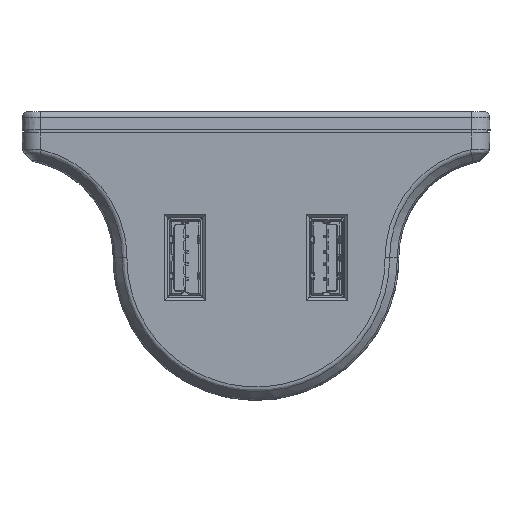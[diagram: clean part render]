
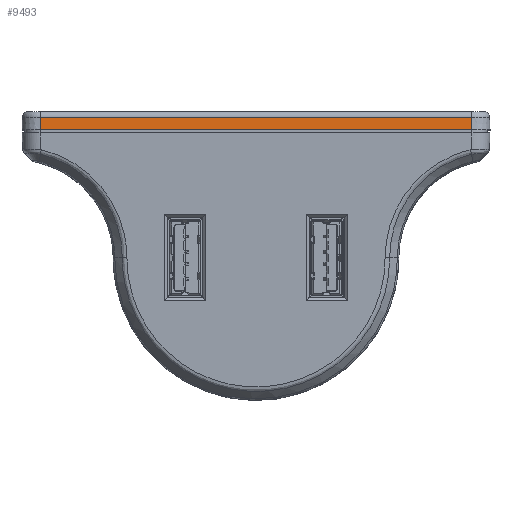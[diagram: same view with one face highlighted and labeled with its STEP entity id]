
A CAD part, top view. The second image highlights one B-rep face of the part: STEP entity #9493.
In plain terms, the highlighted planar face has unit normal (0, 0.035, 0.999).
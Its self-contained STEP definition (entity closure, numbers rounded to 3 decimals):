
#600 = AXIS2_PLACEMENT_3D ( 'NONE', #27544, #27696, #27421 ) ;
#1909 = EDGE_CURVE ( 'NONE', #42950, #18803, #29092, .T. ) ;
#2480 = VECTOR ( 'NONE', #10789, 1000. ) ;
#2806 = VECTOR ( 'NONE', #20367, 1000. ) ;
#4141 = CARTESIAN_POINT ( 'NONE',  ( -0.969, 30.727, 91.929 ) ) ;
#4614 = EDGE_CURVE ( 'NONE', #18803, #14187, #5660, .T. ) ;
#5660 = LINE ( 'NONE', #24433, #45059 ) ;
#9493 = ADVANCED_FACE ( 'NONE', ( #10593 ), #27473, .T. ) ;
#10593 = FACE_OUTER_BOUND ( 'NONE', #21440, .T. ) ;
#10710 = CARTESIAN_POINT ( 'NONE',  ( -0.969, 28.692, 92. ) ) ;
#10789 = DIRECTION ( 'NONE',  ( 0., 0.999, -0.035 ) ) ;
#12375 = EDGE_CURVE ( 'NONE', #51890, #42950, #56517, .T. ) ;
#13236 = CARTESIAN_POINT ( 'NONE',  ( -0.969, 28.692, 92. ) ) ;
#14187 = VERTEX_POINT ( 'NONE', #40449 ) ;
#16218 = LINE ( 'NONE', #54183, #54015 ) ;
#18803 = VERTEX_POINT ( 'NONE', #57011 ) ;
#19043 = EDGE_CURVE ( 'NONE', #14187, #51890, #16218, .T. ) ;
#20367 = DIRECTION ( 'NONE',  ( -1., 0., 0. ) ) ;
#20770 = CARTESIAN_POINT ( 'NONE',  ( -71.969, 30.727, 91.929 ) ) ;
#21440 = EDGE_LOOP ( 'NONE', ( #45213, #29808, #52555, #34186 ) ) ;
#24433 = CARTESIAN_POINT ( 'NONE',  ( -71.969, 28.692, 92. ) ) ;
#27421 = DIRECTION ( 'NONE',  ( 0., -0.999, 0.035 ) ) ;
#27473 = PLANE ( 'NONE',  #600 ) ;
#27544 = CARTESIAN_POINT ( 'NONE',  ( -71.969, 28.692, 92. ) ) ;
#27696 = DIRECTION ( 'NONE',  ( 0., 0.035, 0.999 ) ) ;
#29092 = LINE ( 'NONE', #20770, #2806 ) ;
#29808 = ORIENTED_EDGE ( 'NONE', *, *, #1909, .T. ) ;
#34186 = ORIENTED_EDGE ( 'NONE', *, *, #19043, .T. ) ;
#40449 = CARTESIAN_POINT ( 'NONE',  ( -71.969, 28.692, 92. ) ) ;
#42950 = VERTEX_POINT ( 'NONE', #4141 ) ;
#45059 = VECTOR ( 'NONE', #62566, 1000. ) ;
#45213 = ORIENTED_EDGE ( 'NONE', *, *, #12375, .T. ) ;
#49245 = DIRECTION ( 'NONE',  ( 1., 0., 0. ) ) ;
#51890 = VERTEX_POINT ( 'NONE', #13236 ) ;
#52555 = ORIENTED_EDGE ( 'NONE', *, *, #4614, .T. ) ;
#54015 = VECTOR ( 'NONE', #49245, 1000. ) ;
#54183 = CARTESIAN_POINT ( 'NONE',  ( -71.969, 28.692, 92. ) ) ;
#56517 = LINE ( 'NONE', #10710, #2480 ) ;
#57011 = CARTESIAN_POINT ( 'NONE',  ( -71.969, 30.727, 91.929 ) ) ;
#62566 = DIRECTION ( 'NONE',  ( 0., -0.999, 0.035 ) ) ;
